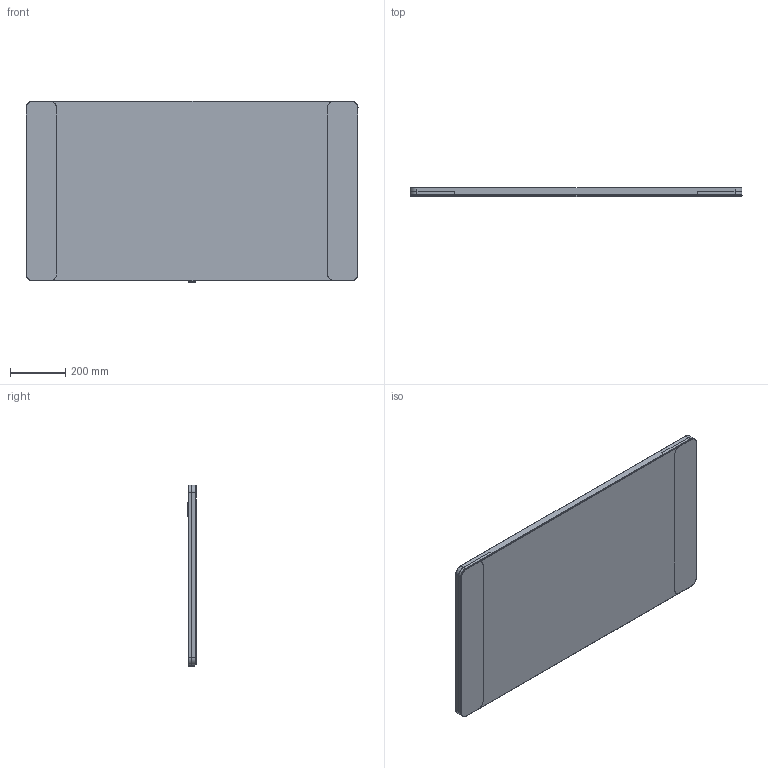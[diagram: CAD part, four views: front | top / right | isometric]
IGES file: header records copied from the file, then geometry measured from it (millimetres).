
Global section: file name: 819220000; native system: Autodesk Inventor 2018; preprocessor: unknown; date: 20200306.075807; units: millimetre
Bounding box: 1200 x 32.01 x 657.5 mm (x, y, z)
Volume: 4555634.3 mm3; surface area: 2287111.1 mm2
Topology: 17 solids, 17 shells, 423 faces, 1070 edges, 667 vertices
Faces by surface type: bspline 423
